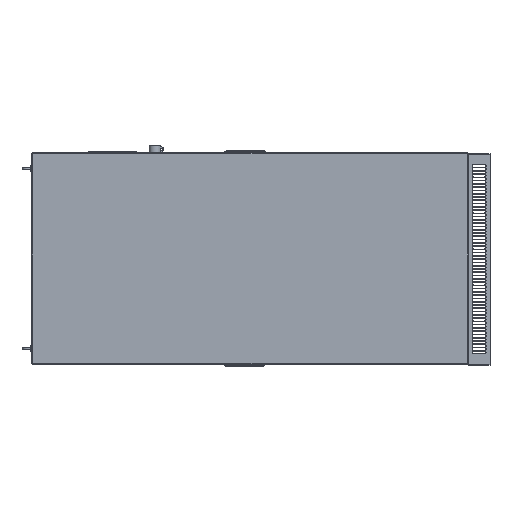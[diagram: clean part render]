
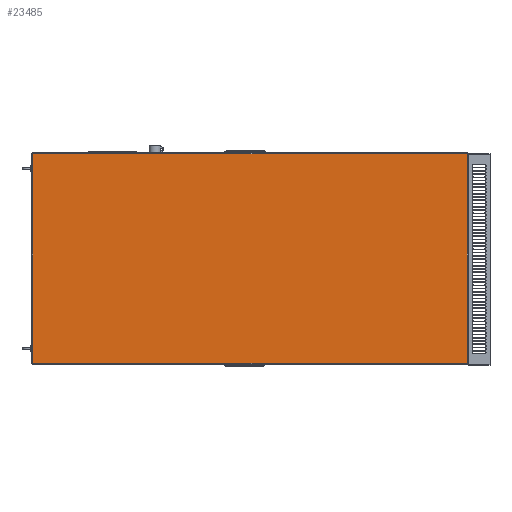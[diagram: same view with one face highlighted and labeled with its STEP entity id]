
A CAD part, left-side view. The second image highlights one B-rep face of the part: STEP entity #23485.
In plain terms, the highlighted planar face has unit normal (-1, 0, 0).
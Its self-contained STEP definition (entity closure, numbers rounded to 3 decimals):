
#3140=FACE_OUTER_BOUND('',#4727,.T.);
#4727=EDGE_LOOP('',(#20105,#20106,#20107,#20108));
#6733=LINE('',#38389,#8964);
#6735=LINE('',#38392,#8966);
#6736=LINE('',#38394,#8967);
#6741=LINE('',#38401,#8972);
#8964=VECTOR('',#31407,10.);
#8966=VECTOR('',#31411,10.);
#8967=VECTOR('',#31414,10.);
#8972=VECTOR('',#31423,10.);
#11167=VERTEX_POINT('',#38311);
#11172=VERTEX_POINT('',#38321);
#11177=VERTEX_POINT('',#38333);
#11180=VERTEX_POINT('',#38340);
#14257=EDGE_CURVE('',#11177,#11180,#6733,.T.);
#14259=EDGE_CURVE('',#11180,#11172,#6735,.T.);
#14260=EDGE_CURVE('',#11167,#11177,#6736,.T.);
#14265=EDGE_CURVE('',#11172,#11167,#6741,.T.);
#20105=ORIENTED_EDGE('',*,*,#14257,.F.);
#20106=ORIENTED_EDGE('',*,*,#14260,.F.);
#20107=ORIENTED_EDGE('',*,*,#14265,.F.);
#20108=ORIENTED_EDGE('',*,*,#14259,.F.);
#22422=PLANE('',#25744);
#23485=ADVANCED_FACE('',(#3140),#22422,.T.);
#25744=AXIS2_PLACEMENT_3D('',#38407,#31434,#31435);
#31407=DIRECTION('',(0.,-1.,0.));
#31411=DIRECTION('',(0.,0.,-1.));
#31414=DIRECTION('',(0.,0.,1.));
#31423=DIRECTION('',(0.,1.,0.));
#31434=DIRECTION('center_axis',(-1.,0.,0.));
#31435=DIRECTION('ref_axis',(0.,1.,0.));
#38311=CARTESIAN_POINT('',(-300.,995.,-965.));
#38321=CARTESIAN_POINT('',(-300.,-995.,-965.));
#38333=CARTESIAN_POINT('',(-300.,995.,-5.));
#38340=CARTESIAN_POINT('',(-300.,-995.,-5.));
#38389=CARTESIAN_POINT('',(-300.,-500.,-5.));
#38392=CARTESIAN_POINT('',(-300.,-995.,0.));
#38394=CARTESIAN_POINT('',(-300.,995.,0.));
#38401=CARTESIAN_POINT('',(-300.,-500.,-965.));
#38407=CARTESIAN_POINT('Origin',(-300.,-1000.,0.));
